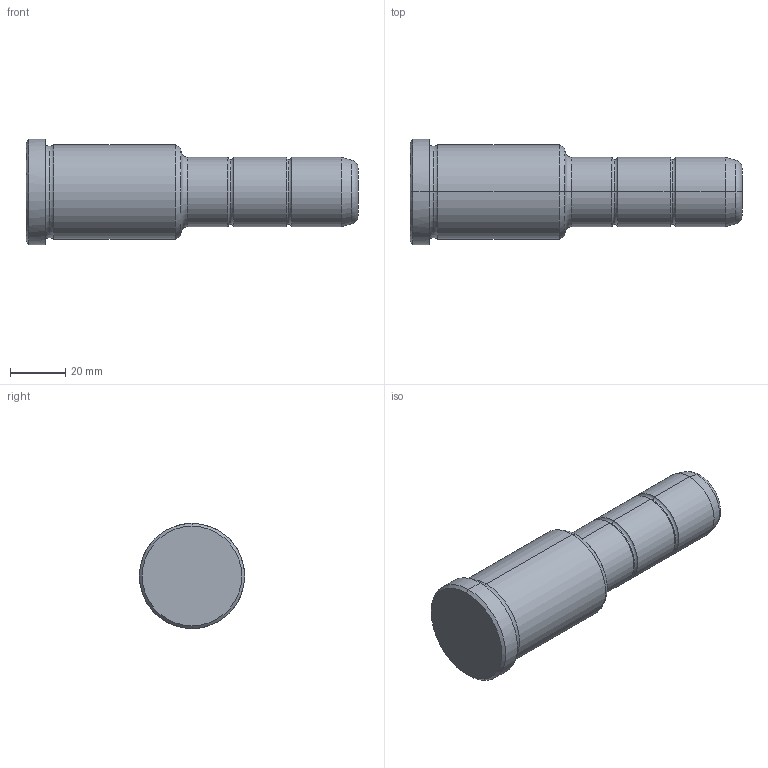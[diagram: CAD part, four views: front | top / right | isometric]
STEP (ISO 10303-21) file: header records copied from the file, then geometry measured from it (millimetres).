
FILE_DESCRIPTION(('CATIA V5 STEP Exchange'),'2;1');
FILE_NAME('C:\Users\Utente\Desktop\IO LAVORO\3D X SITO CF\X SITO\PLASTICA\351\351-25X56X120.stp','2021-09-07T10:20:11+00:00',('none'),('none'),'CATIA Version 5 Release 20 GA (IN-10)','CATIA V5 STEP AP203','none');
FILE_SCHEMA(('CONFIG_CONTROL_DESIGN'));
Length unit declared in the file: millimetre
Products named in the file (1): 351-25X56X120
Bounding box: 120 x 38 x 38 mm (x, y, z)
Volume: 83053.8 mm3; surface area: 13054.3 mm2
Topology: 1 solids, 1 shells, 36 faces, 102 edges, 70 vertices
Faces by surface type: torus 16, cylinder 10, cone 6, plane 4
Entity records: 1292 total; most frequent: CARTESIAN_POINT 321, ORIENTED_EDGE 204, DIRECTION 166, AXIS2_PLACEMENT_3D 115, EDGE_CURVE 102, CIRCLE 78, VERTEX_POINT 70, EDGE_LOOP 38
